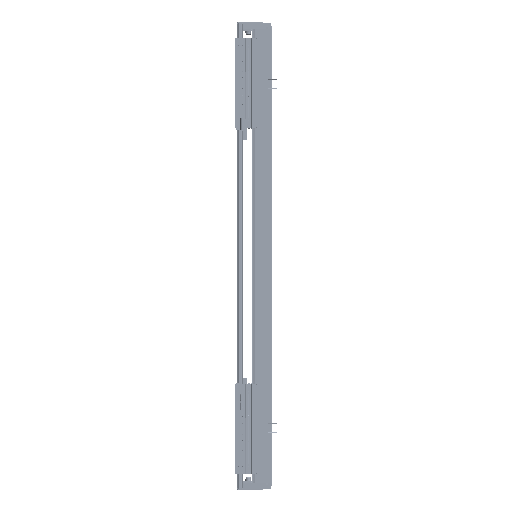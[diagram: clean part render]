
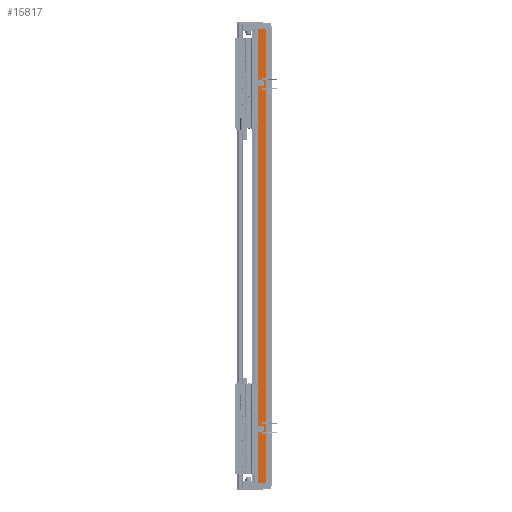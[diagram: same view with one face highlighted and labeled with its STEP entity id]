
A CAD part, left-side view. The second image highlights one B-rep face of the part: STEP entity #15817.
In plain terms, the highlighted planar face has unit normal (-1, 0, 0).
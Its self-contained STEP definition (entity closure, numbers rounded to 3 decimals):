
#932 = CARTESIAN_POINT ( 'NONE',  ( -97.5, 36.95, 630. ) ) ;
#11100 = DIRECTION ( 'NONE',  ( 0., 0., -1. ) ) ;
#15528 = CARTESIAN_POINT ( 'NONE',  ( -97.5, 36.95, 630. ) ) ;
#15817 = ADVANCED_FACE ( 'NONE', ( #88169 ), #76201, .F. ) ;
#19820 = VERTEX_POINT ( 'NONE', #71045 ) ;
#22970 = EDGE_CURVE ( 'NONE', #124134, #49936, #98118, .T. ) ;
#25546 = ORIENTED_EDGE ( 'NONE', *, *, #53378, .F. ) ;
#25842 = EDGE_CURVE ( 'NONE', #151880, #49936, #33700, .T. ) ;
#33700 = LINE ( 'NONE', #82313, #37184 ) ;
#34311 = LINE ( 'NONE', #134129, #153742 ) ;
#37184 = VECTOR ( 'NONE', #131113, 1000. ) ;
#49936 = VERTEX_POINT ( 'NONE', #117384 ) ;
#53378 = EDGE_CURVE ( 'NONE', #19820, #151880, #100726, .T. ) ;
#59079 = ORIENTED_EDGE ( 'NONE', *, *, #137891, .T. ) ;
#71045 = CARTESIAN_POINT ( 'NONE',  ( -97.5, 36.95, 630. ) ) ;
#72167 = CARTESIAN_POINT ( 'NONE',  ( -97.5, 14.45, 630. ) ) ;
#76201 = PLANE ( 'NONE',  #149206 ) ;
#77252 = VECTOR ( 'NONE', #134918, 1000. ) ;
#80665 = CARTESIAN_POINT ( 'NONE',  ( -97.5, 36.95, -630. ) ) ;
#82313 = CARTESIAN_POINT ( 'NONE',  ( -97.5, 14.45, 630. ) ) ;
#87952 = VECTOR ( 'NONE', #111152, 1000. ) ;
#88169 = FACE_OUTER_BOUND ( 'NONE', #148645, .T. ) ;
#92044 = ORIENTED_EDGE ( 'NONE', *, *, #22970, .T. ) ;
#98118 = LINE ( 'NONE', #136492, #77252 ) ;
#100726 = LINE ( 'NONE', #932, #87952 ) ;
#111152 = DIRECTION ( 'NONE',  ( 0., -1., 0. ) ) ;
#114151 = ORIENTED_EDGE ( 'NONE', *, *, #25842, .F. ) ;
#117384 = CARTESIAN_POINT ( 'NONE',  ( -97.5, 14.45, -630. ) ) ;
#124134 = VERTEX_POINT ( 'NONE', #80665 ) ;
#131113 = DIRECTION ( 'NONE',  ( 0., 0., -1. ) ) ;
#134129 = CARTESIAN_POINT ( 'NONE',  ( -97.5, 36.95, 630. ) ) ;
#134918 = DIRECTION ( 'NONE',  ( 0., -1., 0. ) ) ;
#136492 = CARTESIAN_POINT ( 'NONE',  ( -97.5, 36.95, -630. ) ) ;
#137891 = EDGE_CURVE ( 'NONE', #19820, #124134, #34311, .T. ) ;
#145821 = DIRECTION ( 'NONE',  ( 0., 1., 0. ) ) ;
#148645 = EDGE_LOOP ( 'NONE', ( #92044, #114151, #25546, #59079 ) ) ;
#149206 = AXIS2_PLACEMENT_3D ( 'NONE', #15528, #157845, #145821 ) ;
#151880 = VERTEX_POINT ( 'NONE', #72167 ) ;
#153742 = VECTOR ( 'NONE', #11100, 1000. ) ;
#157845 = DIRECTION ( 'NONE',  ( 1., 0., 0. ) ) ;
